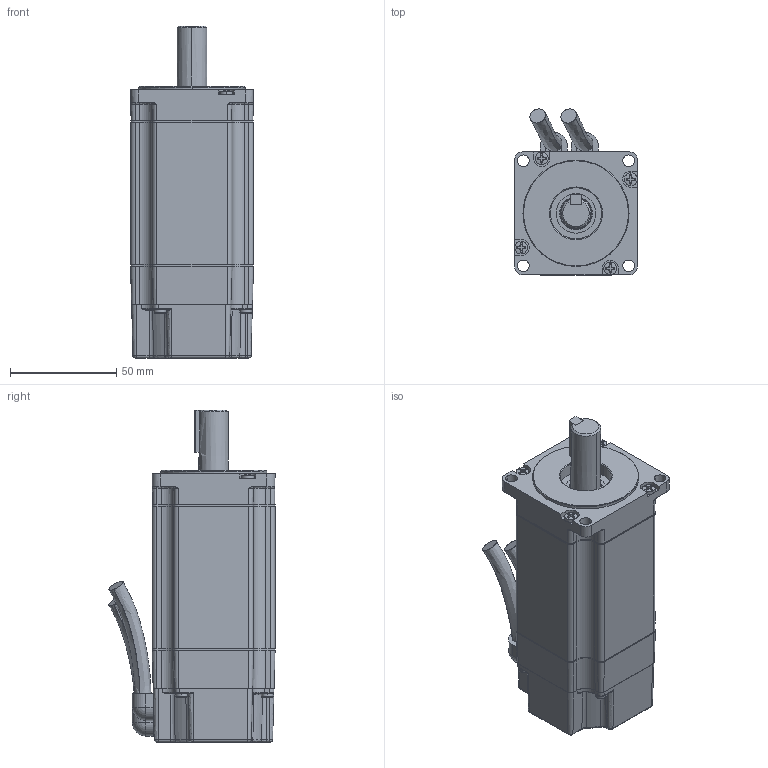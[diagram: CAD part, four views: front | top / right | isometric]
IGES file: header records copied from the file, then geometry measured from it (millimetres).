
Start section:  PTC IGES file: vlm22c.igs
Global section: file name: vlm22c.igs; native system: Pro/ENGINEER by Parametric Technology Corporation; preprocessor: 2006510; author: Ray.Dobbins; organization: Unknown; date: 20110715.130419; units: inch
Bounding box: 57.91 x 78.26 x 156.37 mm (x, y, z)
Surface area: 132690.3 mm2 (no closed solid volume)
Topology: 0 solids, 0 shells, 1825 faces, 9669 edges, 9659 vertices
Faces by surface type: revolution 1056, bspline 769
